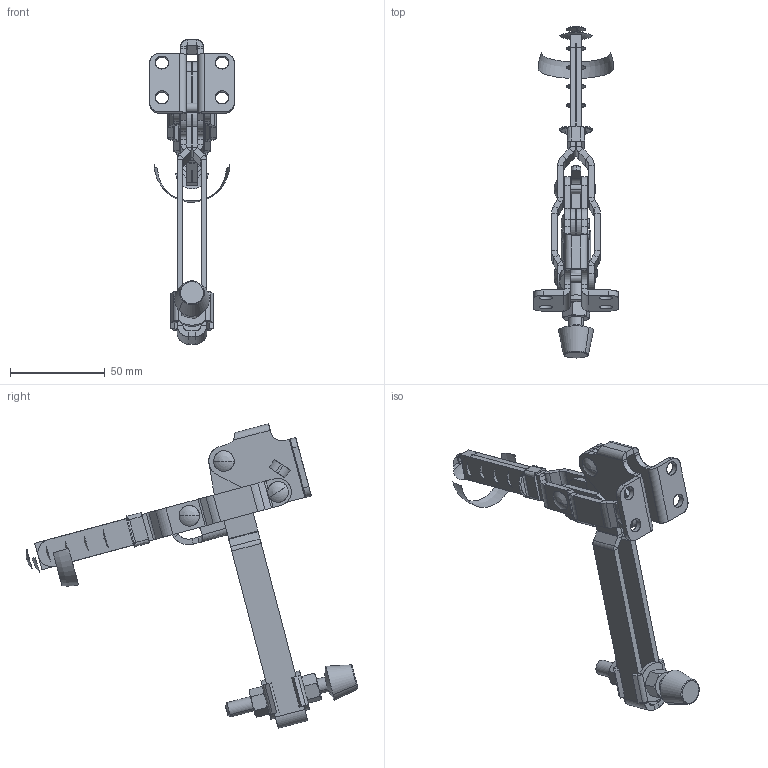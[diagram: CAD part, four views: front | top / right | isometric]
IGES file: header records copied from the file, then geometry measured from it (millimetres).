
Start section: SolidWorks IGES file using analytic representation for surfaces
Global section: file name: \\BARTOP_SV6\share\SOLIDWORKS\工具事業部\坂入用\受け渡し\2016.05.12\ISK-HV4530-XL.IGS; native system: SolidWorks 2016; preprocessor: SolidWorks 2016; author: SOLID02; date: 160512.162956; units: millimetre
Bounding box: 44.6 x 175.02 x 160.57 mm (x, y, z)
Surface area: 46421.5 mm2 (no closed solid volume)
Topology: 0 solids, 0 shells, 534 faces, 5792 edges, 5785 vertices
Faces by surface type: bspline 306, revolution 228
